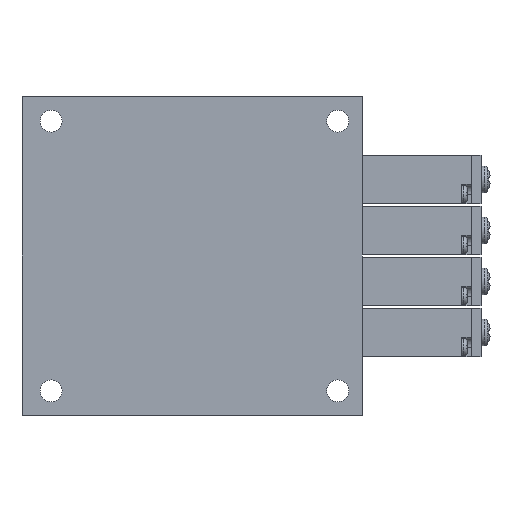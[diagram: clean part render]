
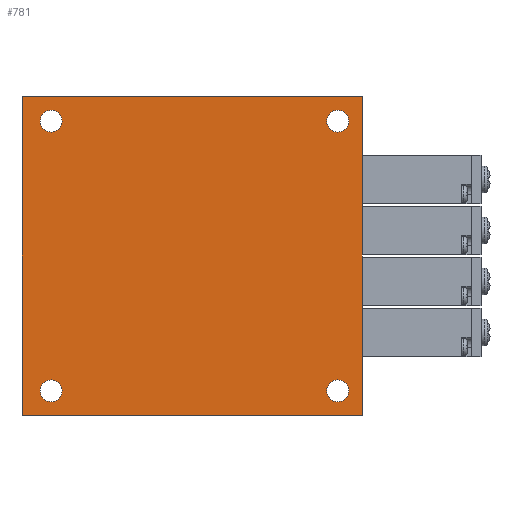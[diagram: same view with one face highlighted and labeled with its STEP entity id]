
A CAD part, front view. The second image highlights one B-rep face of the part: STEP entity #781.
In plain terms, the highlighted planar face has unit normal (0, -1, 0).
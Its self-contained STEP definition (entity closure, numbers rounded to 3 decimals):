
#781=ADVANCED_FACE('',(#1472,#1473,#1474,#1475,#1476),#1477,.F.);
#1472=FACE_OUTER_BOUND('',#2169,.T.);
#1473=FACE_BOUND('',#2170,.T.);
#1474=FACE_BOUND('',#2171,.T.);
#1475=FACE_BOUND('',#2172,.T.);
#1476=FACE_BOUND('',#2173,.T.);
#1477=PLANE('',#2174);
#2169=EDGE_LOOP('',(#4537,#4538,#4539,#4540));
#2170=EDGE_LOOP('',(#4541));
#2171=EDGE_LOOP('',(#4542));
#2172=EDGE_LOOP('',(#4543));
#2173=EDGE_LOOP('',(#4544));
#2174=AXIS2_PLACEMENT_3D('',#4545,#4546,#4547);
#4537=ORIENTED_EDGE('',*,*,#5287,.T.);
#4538=ORIENTED_EDGE('',*,*,#5272,.F.);
#4539=ORIENTED_EDGE('',*,*,#5289,.F.);
#4540=ORIENTED_EDGE('',*,*,#5284,.T.);
#4541=ORIENTED_EDGE('',*,*,#5286,.F.);
#4542=ORIENTED_EDGE('',*,*,#5265,.F.);
#4543=ORIENTED_EDGE('',*,*,#5278,.F.);
#4544=ORIENTED_EDGE('',*,*,#5267,.F.);
#4545=CARTESIAN_POINT('',(0.0,0.0,32.75));
#4546=DIRECTION('',(-0.0,1.0,0.0));
#4547=DIRECTION('',(1.0,0.0,0.0));
#5265=EDGE_CURVE('',#6492,#6492,#6493,.T.);
#5267=EDGE_CURVE('',#6496,#6496,#6497,.T.);
#5272=EDGE_CURVE('',#6505,#6500,#6507,.T.);
#5278=EDGE_CURVE('',#6517,#6517,#6518,.T.);
#5284=EDGE_CURVE('',#6529,#6527,#6530,.T.);
#5286=EDGE_CURVE('',#6532,#6532,#6533,.T.);
#5287=EDGE_CURVE('',#6527,#6500,#6534,.T.);
#5289=EDGE_CURVE('',#6529,#6505,#6537,.T.);
#6492=VERTEX_POINT('',#8576);
#6493=CIRCLE('',#8577,2.25);
#6496=VERTEX_POINT('',#8580);
#6497=CIRCLE('',#8581,2.25);
#6500=VERTEX_POINT('',#8584);
#6505=VERTEX_POINT('',#8591);
#6507=LINE('',#8594,#8595);
#6517=VERTEX_POINT('',#8608);
#6518=CIRCLE('',#8609,2.25);
#6527=VERTEX_POINT('',#8618);
#6529=VERTEX_POINT('',#8621);
#6530=LINE('',#8622,#8623);
#6532=VERTEX_POINT('',#8626);
#6533=CIRCLE('',#8627,2.25);
#6534=LINE('',#8628,#8629);
#6537=LINE('',#8632,#8633);
#8576=CARTESIAN_POINT('',(65.0,0.0,-25.5));
#8577=AXIS2_PLACEMENT_3D('',#9625,#9626,#9627);
#8580=CARTESIAN_POINT('',(65.0,0.0,30.0));
#8581=AXIS2_PLACEMENT_3D('',#9631,#9632,#9633);
#8584=CARTESIAN_POINT('',(70.0,0.0,-32.75));
#8591=CARTESIAN_POINT('',(70.0,0.0,32.75));
#8594=CARTESIAN_POINT('',(70.0,0.0,32.75));
#8595=VECTOR('',#9640,1.0);
#8608=CARTESIAN_POINT('',(6.0,0.0,-25.5));
#8609=AXIS2_PLACEMENT_3D('',#9650,#9651,#9652);
#8618=CARTESIAN_POINT('',(0.0,0.0,-32.75));
#8621=CARTESIAN_POINT('',(0.0,0.0,32.75));
#8622=CARTESIAN_POINT('',(0.0,0.0,32.75));
#8623=VECTOR('',#9666,1.0);
#8626=CARTESIAN_POINT('',(6.0,0.0,30.0));
#8627=AXIS2_PLACEMENT_3D('',#9668,#9669,#9670);
#8628=CARTESIAN_POINT('',(0.0,0.0,-32.75));
#8629=VECTOR('',#9671,1.0);
#8632=CARTESIAN_POINT('',(0.0,0.0,32.75));
#8633=VECTOR('',#9675,1.0);
#9625=CARTESIAN_POINT('',(65.0,0.0,-27.75));
#9626=DIRECTION('',(0.0,-1.0,0.0));
#9627=DIRECTION('',(0.0,0.0,1.0));
#9631=CARTESIAN_POINT('',(65.0,0.0,27.75));
#9632=DIRECTION('',(0.0,-1.0,0.0));
#9633=DIRECTION('',(0.0,0.0,1.0));
#9640=DIRECTION('',(0.0,0.0,-1.0));
#9650=CARTESIAN_POINT('',(6.0,0.0,-27.75));
#9651=DIRECTION('',(0.0,-1.0,0.0));
#9652=DIRECTION('',(0.0,0.0,1.0));
#9666=DIRECTION('',(0.0,0.0,-1.0));
#9668=CARTESIAN_POINT('',(6.0,0.0,27.75));
#9669=DIRECTION('',(0.0,-1.0,0.0));
#9670=DIRECTION('',(0.0,0.0,1.0));
#9671=DIRECTION('',(1.0,0.0,0.0));
#9675=DIRECTION('',(1.0,0.0,0.0));
